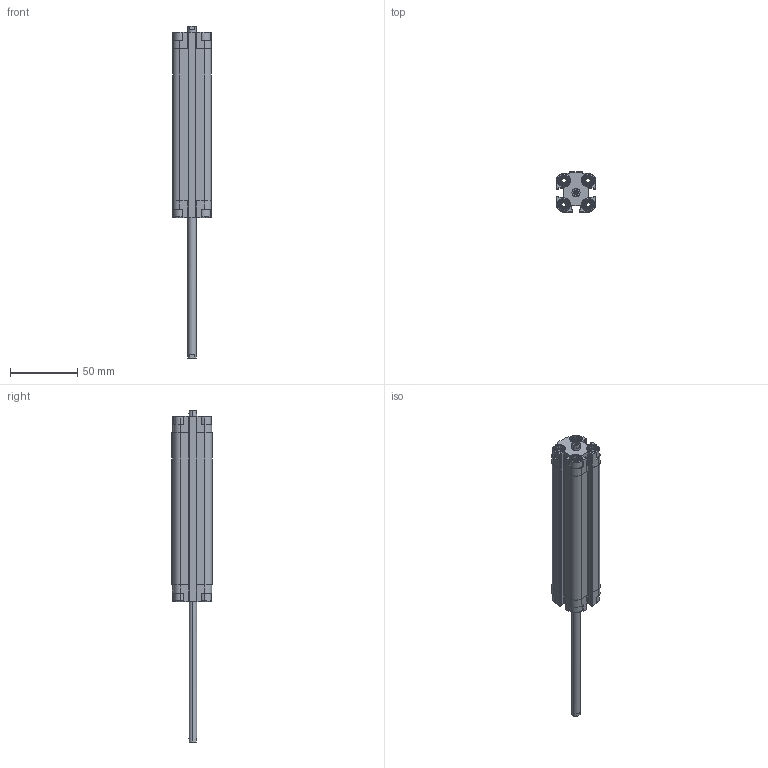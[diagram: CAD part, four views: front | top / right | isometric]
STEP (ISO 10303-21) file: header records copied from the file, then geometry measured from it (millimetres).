
FILE_DESCRIPTION (( 'STEP AP203' ), '1' );
FILE_NAME ('CDVU12-100F-P.STEP', '2020-07-24T18:02:50', ( '' ), ( '' ), 'SwSTEP 2.0', 'SolidWorks 2019', '' );
FILE_SCHEMA (( 'CONFIG_CONTROL_DESIGN' ));
Length unit declared in the file: millimetre
Products named in the file (1): CDVU12-100F-P
Bounding box: 29 x 30 x 247 mm (x, y, z)
Volume: 80196.1 mm3; surface area: 42556 mm2
Topology: 2 solids, 2 shells, 566 faces, 1508 edges, 980 vertices
Faces by surface type: plane 338, cylinder 164, cone 48, torus 16
Entity records: 17779 total; most frequent: CARTESIAN_POINT 3623, ORIENTED_EDGE 3000, DIRECTION 2850, EDGE_CURVE 1500, VERTEX_POINT 980, AXIS2_PLACEMENT_3D 975, LINE 900, VECTOR 900
